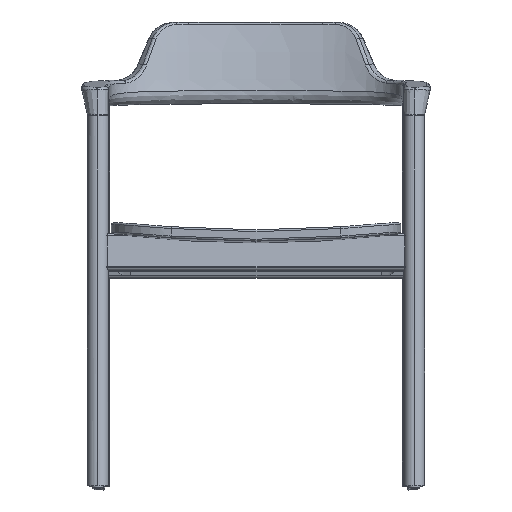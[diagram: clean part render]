
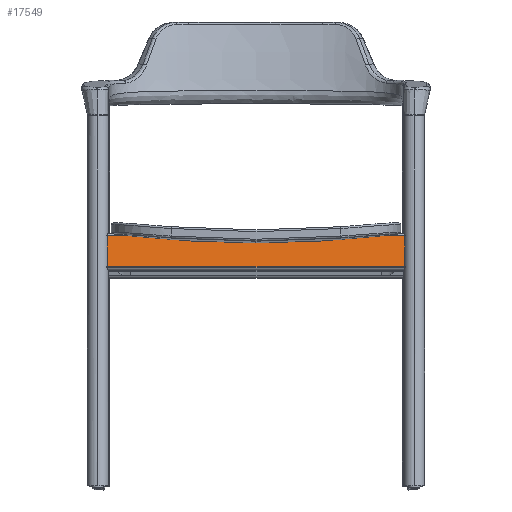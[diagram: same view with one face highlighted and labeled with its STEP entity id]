
A CAD part, top view. The second image highlights one B-rep face of the part: STEP entity #17549.
In plain terms, the highlighted planar face has unit normal (0, 0.174, 0.985).
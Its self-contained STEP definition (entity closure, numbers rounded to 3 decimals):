
#483 = AXIS2_PLACEMENT_3D ( 'NONE', #12557, #10638, #17504 ) ;
#741 = ORIENTED_EDGE ( 'NONE', *, *, #10369, .F. ) ;
#1547 = VERTEX_POINT ( 'NONE', #9028 ) ;
#1568 = VERTEX_POINT ( 'NONE', #7220 ) ;
#1767 = CARTESIAN_POINT ( 'NONE',  ( -136.196, 390.123, -73.17 ) ) ;
#1784 = VERTEX_POINT ( 'NONE', #2254 ) ;
#1789 = ORIENTED_EDGE ( 'NONE', *, *, #20970, .T. ) ;
#2254 = CARTESIAN_POINT ( 'NONE',  ( 203.91, 397.801, -74.524 ) ) ;
#3458 = CARTESIAN_POINT ( 'NONE',  ( 239., 348.561, -65.842 ) ) ;
#3565 = DIRECTION ( 'NONE',  ( -1., 0., 0. ) ) ;
#3855 = ORIENTED_EDGE ( 'NONE', *, *, #18242, .T. ) ;
#4050 = EDGE_CURVE ( 'NONE', #10487, #10451, #12599, .T. ) ;
#4417 = CARTESIAN_POINT ( 'NONE',  ( 136.196, 390.123, -73.17 ) ) ;
#5050 = DIRECTION ( 'NONE',  ( 0., -0.985, 0.174 ) ) ;
#5134 = VECTOR ( 'NONE', #3565, 1000. ) ;
#5177 = DIRECTION ( 'NONE',  ( 1., 0., 0. ) ) ;
#5239 = PLANE ( 'NONE',  #483 ) ;
#6061 = DIRECTION ( 'NONE',  ( -1., 0., 0. ) ) ;
#6303 = CARTESIAN_POINT ( 'NONE',  ( 0., 386.278, -72.492 ) ) ;
#7034 = LINE ( 'NONE', #10306, #5134 ) ;
#7220 = CARTESIAN_POINT ( 'NONE',  ( -239., 348.561, -65.842 ) ) ;
#7755 = VECTOR ( 'NONE', #15590, 1000. ) ;
#9028 = CARTESIAN_POINT ( 'NONE',  ( 239., 397.801, -74.524 ) ) ;
#9054 = EDGE_LOOP ( 'NONE', ( #16536, #1789, #3855, #21054, #12230, #11503, #741 ) ) ;
#9166 = VERTEX_POINT ( 'NONE', #15428 ) ;
#10167 = LINE ( 'NONE', #12199, #7755 ) ;
#10297 = VECTOR ( 'NONE', #5050, 1000. ) ;
#10306 = CARTESIAN_POINT ( 'NONE',  ( 239., 397.801, -74.524 ) ) ;
#10369 = EDGE_CURVE ( 'NONE', #1547, #16694, #16760, .T. ) ;
#10451 = VERTEX_POINT ( 'NONE', #15190 ) ;
#10487 = VERTEX_POINT ( 'NONE', #11573 ) ;
#10638 = DIRECTION ( 'NONE',  ( 0., -0.174, -0.985 ) ) ;
#11468 = VECTOR ( 'NONE', #6061, 1000. ) ;
#11503 = ORIENTED_EDGE ( 'NONE', *, *, #19177, .T. ) ;
#11573 = CARTESIAN_POINT ( 'NONE',  ( -203.91, 397.801, -74.524 ) ) ;
#11600 = CARTESIAN_POINT ( 'NONE',  ( 203.91, 397.801, -74.524 ) ) ;
#12199 = CARTESIAN_POINT ( 'NONE',  ( -239., 402.725, -75.392 ) ) ;
#12230 = ORIENTED_EDGE ( 'NONE', *, *, #15450, .T. ) ;
#12337 = CARTESIAN_POINT ( 'NONE',  ( 0., 386.278, -72.492 ) ) ;
#12557 = CARTESIAN_POINT ( 'NONE',  ( 239., 402.725, -75.392 ) ) ;
#12599 = LINE ( 'NONE', #21139, #11468 ) ;
#13907 = CARTESIAN_POINT ( 'NONE',  ( -68.153, 386.278, -72.492 ) ) ;
#14777 = CARTESIAN_POINT ( 'NONE',  ( 68.153, 386.278, -72.492 ) ) ;
#14976 = CARTESIAN_POINT ( 'NONE',  ( 239., 348.561, -65.842 ) ) ;
#15190 = CARTESIAN_POINT ( 'NONE',  ( -239., 397.801, -74.524 ) ) ;
#15428 = CARTESIAN_POINT ( 'NONE',  ( 0., 386.278, -72.492 ) ) ;
#15450 = EDGE_CURVE ( 'NONE', #10451, #1568, #10167, .T. ) ;
#15590 = DIRECTION ( 'NONE',  ( 0., -0.985, 0.174 ) ) ;
#16536 = ORIENTED_EDGE ( 'NONE', *, *, #18182, .T. ) ;
#16694 = VERTEX_POINT ( 'NONE', #3458 ) ;
#16760 = LINE ( 'NONE', #18549, #10297 ) ;
#17504 = DIRECTION ( 'NONE',  ( 0., 0.985, -0.174 ) ) ;
#17549 = ADVANCED_FACE ( 'NONE', ( #20642 ), #5239, .F. ) ;
#18182 = EDGE_CURVE ( 'NONE', #1547, #1784, #7034, .T. ) ;
#18242 = EDGE_CURVE ( 'NONE', #9166, #10487, #20586, .T. ) ;
#18549 = CARTESIAN_POINT ( 'NONE',  ( 239., 402.725, -75.392 ) ) ;
#18973 = CARTESIAN_POINT ( 'NONE',  ( -203.91, 397.801, -74.524 ) ) ;
#19177 = EDGE_CURVE ( 'NONE', #1568, #16694, #21798, .T. ) ;
#20586 =( BOUNDED_CURVE ( )  B_SPLINE_CURVE ( 3, ( #12337, #13907, #1767, #18973 ),
 .UNSPECIFIED., .F., .T. ) 
 B_SPLINE_CURVE_WITH_KNOTS ( ( 4, 4 ),
 ( 0., 0.114 ),
 .UNSPECIFIED. ) 
 CURVE ( )  GEOMETRIC_REPRESENTATION_ITEM ( )  RATIONAL_B_SPLINE_CURVE ( ( 1., 0.999, 0.999, 1. ) ) 
 REPRESENTATION_ITEM ( '' )  );
#20642 = FACE_OUTER_BOUND ( 'NONE', #9054, .T. ) ;
#20970 = EDGE_CURVE ( 'NONE', #1784, #9166, #21187, .T. ) ;
#21054 = ORIENTED_EDGE ( 'NONE', *, *, #4050, .T. ) ;
#21107 = VECTOR ( 'NONE', #5177, 1000. ) ;
#21139 = CARTESIAN_POINT ( 'NONE',  ( 239., 397.801, -74.524 ) ) ;
#21187 =( BOUNDED_CURVE ( )  B_SPLINE_CURVE ( 3, ( #11600, #4417, #14777, #6303 ),
 .UNSPECIFIED., .F., .T. ) 
 B_SPLINE_CURVE_WITH_KNOTS ( ( 4, 4 ),
 ( 6.17, 6.283 ),
 .UNSPECIFIED. ) 
 CURVE ( )  GEOMETRIC_REPRESENTATION_ITEM ( )  RATIONAL_B_SPLINE_CURVE ( ( 1., 0.999, 0.999, 1. ) ) 
 REPRESENTATION_ITEM ( '' )  );
#21798 = LINE ( 'NONE', #14976, #21107 ) ;
